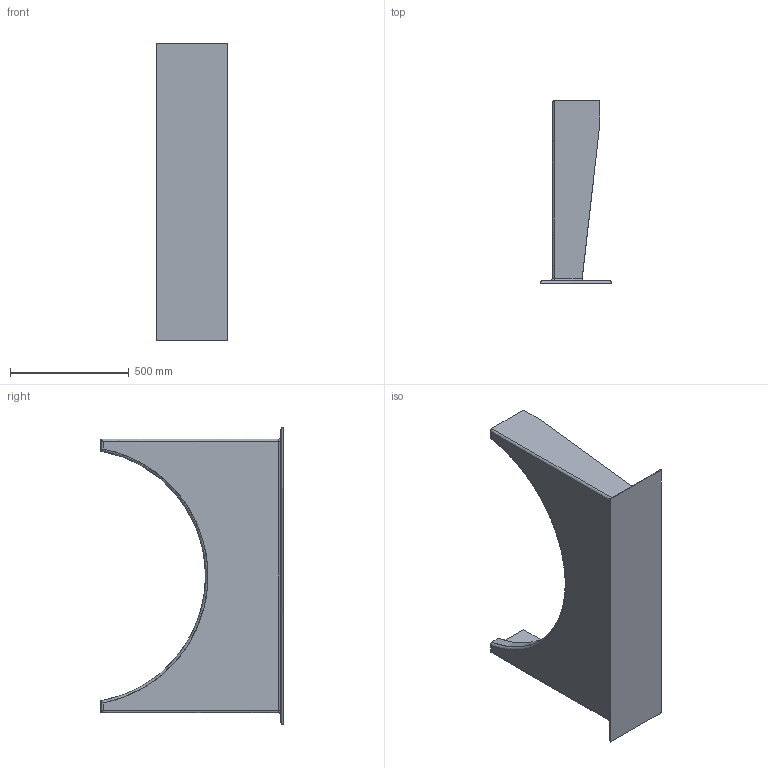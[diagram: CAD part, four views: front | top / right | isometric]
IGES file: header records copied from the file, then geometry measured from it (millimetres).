
Start section: SolidWorks IGES file using analytic representation for surfaces
Global section: file name: D:\Autodesk Simulation Manuscript\c03_Autodesk-Simulation\c03_exr03.IGS; native system: SolidWorks 2012; preprocessor: SolidWorks 2012; author: Sham-2011B; date: 120604.102907; units: inch
Bounding box: 300 x 767.38 x 1250.59 mm (x, y, z)
Surface area: 2350691.7 mm2 (no closed solid volume)
Topology: 0 solids, 0 shells, 43 faces, 614 edges, 614 vertices
Faces by surface type: bspline 22, revolution 21
